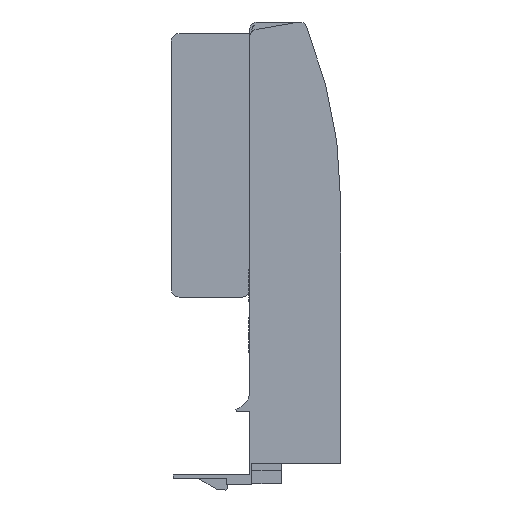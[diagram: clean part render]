
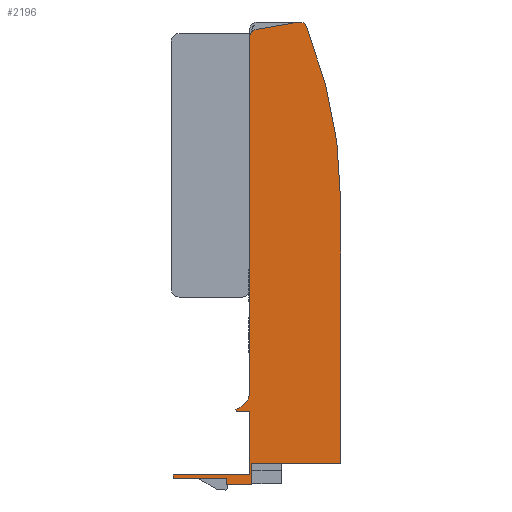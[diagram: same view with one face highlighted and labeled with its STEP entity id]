
A CAD part, front view. The second image highlights one B-rep face of the part: STEP entity #2196.
In plain terms, the highlighted planar face has unit normal (0, -1, 0).
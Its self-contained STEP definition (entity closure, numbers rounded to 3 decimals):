
#32 = ORIENTED_EDGE ( 'NONE', *, *, #2298, .T. ) ;
#59 = ORIENTED_EDGE ( 'NONE', *, *, #2244, .T. ) ;
#71 = ORIENTED_EDGE ( 'NONE', *, *, #2118, .T. ) ;
#101 = ORIENTED_EDGE ( 'NONE', *, *, #2258, .T. ) ;
#105 = ORIENTED_EDGE ( 'NONE', *, *, #2242, .T. ) ;
#106 = ORIENTED_EDGE ( 'NONE', *, *, #2315, .T. ) ;
#118 = ORIENTED_EDGE ( 'NONE', *, *, #2247, .T. ) ;
#127 = ORIENTED_EDGE ( 'NONE', *, *, #2045, .T. ) ;
#129 = ORIENTED_EDGE ( 'NONE', *, *, #2336, .T. ) ;
#138 = ORIENTED_EDGE ( 'NONE', *, *, #2206, .T. ) ;
#142 = ORIENTED_EDGE ( 'NONE', *, *, #2257, .T. ) ;
#144 = ORIENTED_EDGE ( 'NONE', *, *, #2286, .T. ) ;
#148 = ORIENTED_EDGE ( 'NONE', *, *, #2171, .T. ) ;
#189 = ORIENTED_EDGE ( 'NONE', *, *, #2024, .T. ) ;
#232 = ORIENTED_EDGE ( 'NONE', *, *, #2342, .T. ) ;
#236 = ORIENTED_EDGE ( 'NONE', *, *, #2283, .T. ) ;
#239 = ORIENTED_EDGE ( 'NONE', *, *, #2253, .T. ) ;
#262 = CIRCLE ( 'NONE', #379, 5. ) ;
#265 = LINE ( 'NONE', #1472, #266 ) ;
#266 = VECTOR ( 'NONE', #1473, 1000. ) ;
#294 = CIRCLE ( 'NONE', #394, 2. ) ;
#323 = LINE ( 'NONE', #1579, #324 ) ;
#324 = VECTOR ( 'NONE', #1580, 1000. ) ;
#330 = LINE ( 'NONE', #1590, #331 ) ;
#331 = VECTOR ( 'NONE', #1591, 1000. ) ;
#379 = AXIS2_PLACEMENT_3D ( 'NONE', #1477, #1480, #1481 ) ;
#390 = AXIS2_PLACEMENT_3D ( 'NONE', #1264, #1270, #1271 ) ;
#394 = AXIS2_PLACEMENT_3D ( 'NONE', #1521, #1540, #1541 ) ;
#421 = AXIS2_PLACEMENT_3D ( 'NONE', #1500, #1509, #1510 ) ;
#452 = CIRCLE ( 'NONE', #421, 2. ) ;
#454 = LINE ( 'NONE', #1177, #495 ) ;
#461 = LINE ( 'NONE', #1393, #564 ) ;
#478 = VECTOR ( 'NONE', #1305, 1000. ) ;
#482 = VECTOR ( 'NONE', #1413, 1000. ) ;
#494 = VECTOR ( 'NONE', #1396, 1000. ) ;
#495 = VECTOR ( 'NONE', #1178, 1000. ) ;
#513 = LINE ( 'NONE', #1412, #482 ) ;
#520 = LINE ( 'NONE', #1387, #582 ) ;
#558 = LINE ( 'NONE', #1304, #478 ) ;
#564 = VECTOR ( 'NONE', #1394, 1000. ) ;
#582 = VECTOR ( 'NONE', #1400, 1000. ) ;
#586 = FACE_OUTER_BOUND ( 'NONE', #1781, .T. ) ;
#590 = LINE ( 'NONE', #1395, #494 ) ;
#611 = VERTEX_POINT ( 'NONE', #741 ) ;
#612 = VERTEX_POINT ( 'NONE', #742 ) ;
#637 = VERTEX_POINT ( 'NONE', #767 ) ;
#638 = VERTEX_POINT ( 'NONE', #768 ) ;
#655 = VERTEX_POINT ( 'NONE', #785 ) ;
#656 = VERTEX_POINT ( 'NONE', #786 ) ;
#662 = VERTEX_POINT ( 'NONE', #792 ) ;
#670 = VERTEX_POINT ( 'NONE', #800 ) ;
#671 = VERTEX_POINT ( 'NONE', #801 ) ;
#672 = VERTEX_POINT ( 'NONE', #802 ) ;
#673 = VERTEX_POINT ( 'NONE', #803 ) ;
#674 = VERTEX_POINT ( 'NONE', #804 ) ;
#675 = VERTEX_POINT ( 'NONE', #805 ) ;
#676 = VERTEX_POINT ( 'NONE', #806 ) ;
#677 = VERTEX_POINT ( 'NONE', #807 ) ;
#678 = VERTEX_POINT ( 'NONE', #808 ) ;
#679 = VERTEX_POINT ( 'NONE', #809 ) ;
#741 = CARTESIAN_POINT ( 'NONE',  ( -21.5, 0., 98.06 ) ) ;
#742 = CARTESIAN_POINT ( 'NONE',  ( -19.847, 0., 100.03 ) ) ;
#767 = CARTESIAN_POINT ( 'NONE',  ( -21.5, 0., -16.5 ) ) ;
#768 = CARTESIAN_POINT ( 'NONE',  ( -21.5, 0., 0. ) ) ;
#785 = CARTESIAN_POINT ( 'NONE',  ( 2.3, 0., -13.5 ) ) ;
#786 = CARTESIAN_POINT ( 'NONE',  ( -20.9, 0., -13.5 ) ) ;
#792 = CARTESIAN_POINT ( 'NONE',  ( -20.9, 0., -19.1 ) ) ;
#800 = CARTESIAN_POINT ( 'NONE',  ( -21.5, 0., 5.395 ) ) ;
#801 = CARTESIAN_POINT ( 'NONE',  ( -25.161, 0., 0.578 ) ) ;
#802 = CARTESIAN_POINT ( 'NONE',  ( -25., 0., 0. ) ) ;
#803 = CARTESIAN_POINT ( 'NONE',  ( -41.499, 0., -16.5 ) ) ;
#804 = CARTESIAN_POINT ( 'NONE',  ( -41.499, 0., -17.528 ) ) ;
#805 = CARTESIAN_POINT ( 'NONE',  ( -27.599, 0., -17.528 ) ) ;
#806 = CARTESIAN_POINT ( 'NONE',  ( -27.599, 0., -19.1 ) ) ;
#807 = CARTESIAN_POINT ( 'NONE',  ( 2.3, 0., 55.168 ) ) ;
#808 = CARTESIAN_POINT ( 'NONE',  ( -6.648, 0., 100.756 ) ) ;
#809 = CARTESIAN_POINT ( 'NONE',  ( -8.847, 0., 101.97 ) ) ;
#863 = CARTESIAN_POINT ( 'NONE',  ( -21.5, 0., 98.06 ) ) ;
#871 = DIRECTION ( 'NONE',  ( 0., 0., -1. ) ) ;
#904 = CARTESIAN_POINT ( 'NONE',  ( -27.599, 0., -17.528 ) ) ;
#908 = DIRECTION ( 'NONE',  ( 0., 0., -1. ) ) ;
#1023 = CARTESIAN_POINT ( 'NONE',  ( -118.3, 0., 55.168 ) ) ;
#1034 = DIRECTION ( 'NONE',  ( 0., -1., 0. ) ) ;
#1035 = DIRECTION ( 'NONE',  ( 1., 0., 0. ) ) ;
#1177 = CARTESIAN_POINT ( 'NONE',  ( -21.5, 0., -16.5 ) ) ;
#1178 = DIRECTION ( 'NONE',  ( -1., 0., 0. ) ) ;
#1261 = PLANE ( 'NONE',  #390 ) ;
#1264 = CARTESIAN_POINT ( 'NONE',  ( -8.75, 0., 61.5 ) ) ;
#1270 = DIRECTION ( 'NONE',  ( 0., 1., 0. ) ) ;
#1271 = DIRECTION ( 'NONE',  ( 0., 0., 1. ) ) ;
#1304 = CARTESIAN_POINT ( 'NONE',  ( -41.499, 0., -17.528 ) ) ;
#1305 = DIRECTION ( 'NONE',  ( 1., 0., 0. ) ) ;
#1387 = CARTESIAN_POINT ( 'NONE',  ( 2.3, 0., -13.5 ) ) ;
#1393 = CARTESIAN_POINT ( 'NONE',  ( -41.499, 0., -16.5 ) ) ;
#1394 = DIRECTION ( 'NONE',  ( 0., 0., -1. ) ) ;
#1395 = CARTESIAN_POINT ( 'NONE',  ( -8.847, 0., 101.97 ) ) ;
#1396 = DIRECTION ( 'NONE',  ( -0.985, 0., -0.174 ) ) ;
#1400 = DIRECTION ( 'NONE',  ( 0., 0., 1. ) ) ;
#1412 = CARTESIAN_POINT ( 'NONE',  ( 2.3, 0., -13.5 ) ) ;
#1413 = DIRECTION ( 'NONE',  ( 1., 0., 0. ) ) ;
#1420 = CARTESIAN_POINT ( 'NONE',  ( -25., 0., 0. ) ) ;
#1421 = DIRECTION ( 'NONE',  ( 1., 0., 0. ) ) ;
#1422 = CARTESIAN_POINT ( 'NONE',  ( -20.9, 0., -19.1 ) ) ;
#1423 = DIRECTION ( 'NONE',  ( 0., 0., 1. ) ) ;
#1472 = CARTESIAN_POINT ( 'NONE',  ( -25.161, 0., 0.578 ) ) ;
#1473 = DIRECTION ( 'NONE',  ( 0.268, 0., -0.963 ) ) ;
#1477 = CARTESIAN_POINT ( 'NONE',  ( -26.5, 0., 5.395 ) ) ;
#1480 = DIRECTION ( 'NONE',  ( 0., 1., 0. ) ) ;
#1481 = DIRECTION ( 'NONE',  ( 1., 0., 0. ) ) ;
#1500 = CARTESIAN_POINT ( 'NONE',  ( -8.5, 0., 100. ) ) ;
#1509 = DIRECTION ( 'NONE',  ( 0., -1., 0. ) ) ;
#1510 = DIRECTION ( 'NONE',  ( 1., 0., 0. ) ) ;
#1521 = CARTESIAN_POINT ( 'NONE',  ( -19.5, 0., 98.06 ) ) ;
#1540 = DIRECTION ( 'NONE',  ( 0., -1., 0. ) ) ;
#1541 = DIRECTION ( 'NONE',  ( 1., 0., 0. ) ) ;
#1579 = CARTESIAN_POINT ( 'NONE',  ( -27.599, 0., -19.1 ) ) ;
#1580 = DIRECTION ( 'NONE',  ( 1., 0., 0. ) ) ;
#1590 = CARTESIAN_POINT ( 'NONE',  ( -21.5, 0., 0. ) ) ;
#1591 = DIRECTION ( 'NONE',  ( 0., 0., -1. ) ) ;
#1696 = LINE ( 'NONE', #863, #1733 ) ;
#1733 = VECTOR ( 'NONE', #871, 1000. ) ;
#1766 = LINE ( 'NONE', #904, #1774 ) ;
#1774 = VECTOR ( 'NONE', #908, 1000. ) ;
#1781 = EDGE_LOOP ( 'NONE', ( #189, #144, #236, #142, #232, #148, #105, #138, #127, #129, #101, #239, #118, #71, #32, #59, #106 ) ) ;
#2009 = VECTOR ( 'NONE', #1421, 1000. ) ;
#2011 = LINE ( 'NONE', #1422, #2012 ) ;
#2012 = VECTOR ( 'NONE', #1423, 1000. ) ;
#2024 = EDGE_CURVE ( 'NONE', #611, #670, #1696, .T. ) ;
#2045 = EDGE_CURVE ( 'NONE', #675, #676, #1766, .T. ) ;
#2118 = EDGE_CURVE ( 'NONE', #677, #678, #2350, .T. ) ;
#2171 = EDGE_CURVE ( 'NONE', #637, #673, #454, .T. ) ;
#2196 = ADVANCED_FACE ( 'NONE', ( #586 ), #1261, .F. ) ;
#2206 = EDGE_CURVE ( 'NONE', #674, #675, #558, .T. ) ;
#2242 = EDGE_CURVE ( 'NONE', #673, #674, #461, .T. ) ;
#2244 = EDGE_CURVE ( 'NONE', #679, #612, #590, .T. ) ;
#2247 = EDGE_CURVE ( 'NONE', #655, #677, #520, .T. ) ;
#2253 = EDGE_CURVE ( 'NONE', #656, #655, #513, .T. ) ;
#2257 = EDGE_CURVE ( 'NONE', #672, #638, #2344, .T. ) ;
#2258 = EDGE_CURVE ( 'NONE', #662, #656, #2011, .T. ) ;
#2283 = EDGE_CURVE ( 'NONE', #671, #672, #265, .T. ) ;
#2286 = EDGE_CURVE ( 'NONE', #670, #671, #262, .T. ) ;
#2298 = EDGE_CURVE ( 'NONE', #678, #679, #452, .T. ) ;
#2310 = AXIS2_PLACEMENT_3D ( 'NONE', #1023, #1034, #1035 ) ;
#2315 = EDGE_CURVE ( 'NONE', #612, #611, #294, .T. ) ;
#2336 = EDGE_CURVE ( 'NONE', #676, #662, #323, .T. ) ;
#2342 = EDGE_CURVE ( 'NONE', #638, #637, #330, .T. ) ;
#2344 = LINE ( 'NONE', #1420, #2009 ) ;
#2350 = CIRCLE ( 'NONE', #2310, 120.6 ) ;
